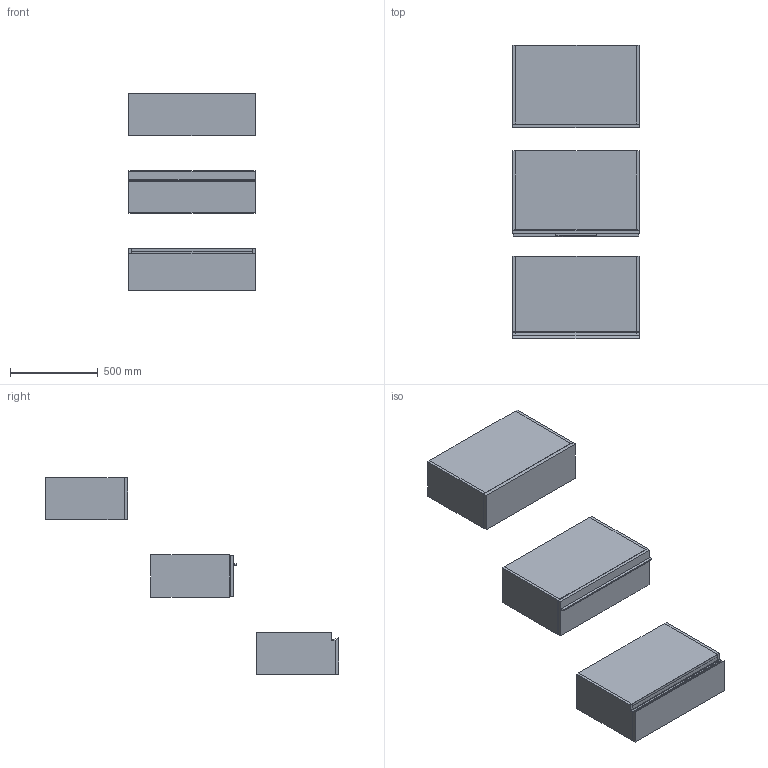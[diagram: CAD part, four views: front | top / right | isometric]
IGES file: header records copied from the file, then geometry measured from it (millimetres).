
Start section: Data from Parasolid IGES Translator 19.0.9, Copyright(c) 2006 Siemens PL M Software. All Rights Reserved.
Global section: file name: noorth-SI-H 24 D 47 W 72_8292.igs; native system: By Siemens PLM Incorporated; preprocessor: XPlus GENERIC/IGES 19.0.9; author: Noname; organization: Noname; date: 20200530.113745; units: metre
Bounding box: 720.01 x 1669.1 x 1120 mm (x, y, z)
Volume: 50397072.8 mm3; surface area: 7404946 mm2
Topology: 20 solids, 20 shells, 178 faces, 382 edges, 234 vertices
Faces by surface type: plane 134, extrusion 16, bspline 16, cylinder 12
